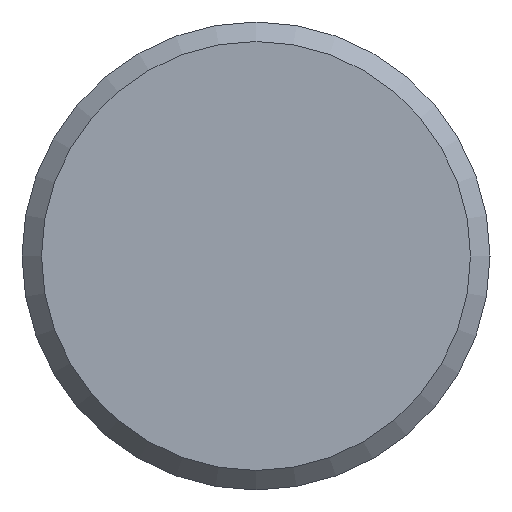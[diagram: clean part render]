
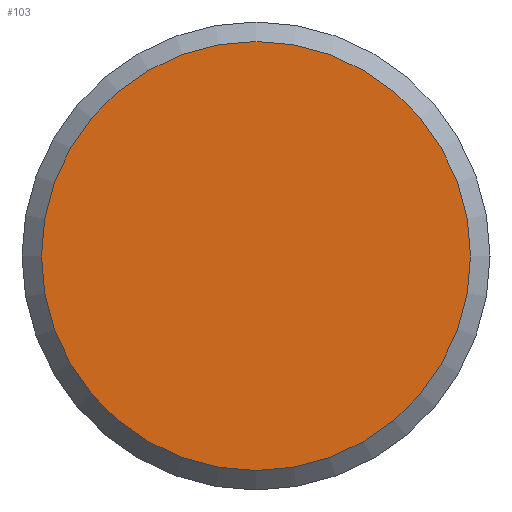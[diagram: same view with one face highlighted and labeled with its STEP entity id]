
A CAD part, left-side view. The second image highlights one B-rep face of the part: STEP entity #103.
In plain terms, the highlighted planar face has unit normal (-1, 0, 0).
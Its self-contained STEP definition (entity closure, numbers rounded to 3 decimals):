
#16=PLANE('',#138);
#30=FACE_OUTER_BOUND('',#36,.T.);
#36=EDGE_LOOP('',(#89));
#45=CIRCLE('',#137,11.);
#53=VERTEX_POINT('',#197);
#65=EDGE_CURVE('',#53,#53,#45,.T.);
#89=ORIENTED_EDGE('',*,*,#65,.F.);
#103=ADVANCED_FACE('',(#30),#16,.F.);
#137=AXIS2_PLACEMENT_3D('',#199,#170,#171);
#138=AXIS2_PLACEMENT_3D('',#200,#172,#173);
#170=DIRECTION('center_axis',(1.,0.,0.));
#171=DIRECTION('ref_axis',(0.,-1.,0.));
#172=DIRECTION('center_axis',(1.,0.,0.));
#173=DIRECTION('ref_axis',(0.,0.,-1.));
#197=CARTESIAN_POINT('',(0.,11.,0.));
#199=CARTESIAN_POINT('Origin',(0.,0.,0.));
#200=CARTESIAN_POINT('Origin',(0.,0.,0.));
